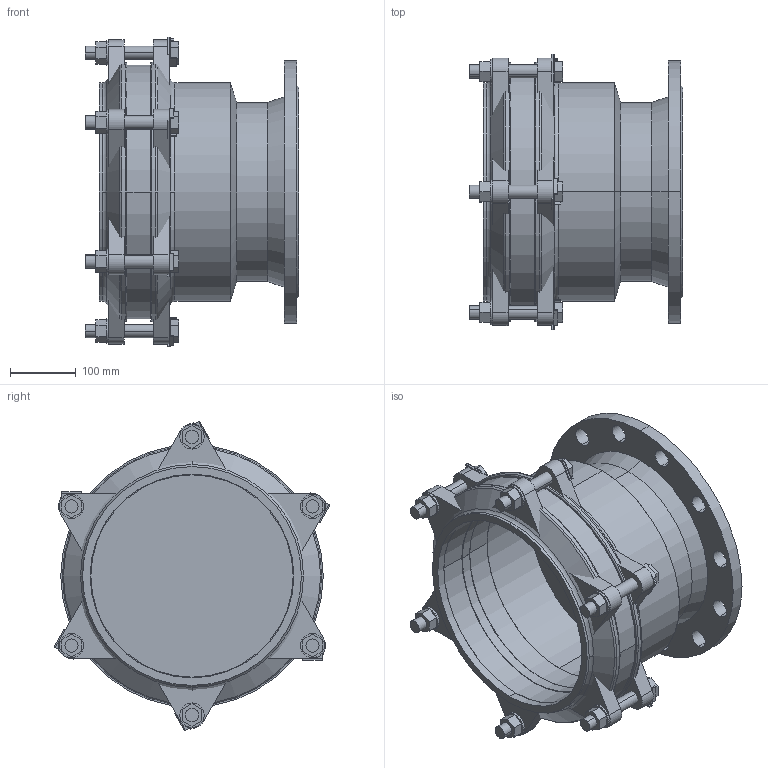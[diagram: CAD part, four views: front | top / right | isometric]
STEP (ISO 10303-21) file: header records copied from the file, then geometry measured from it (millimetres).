
FILE_DESCRIPTION(('STEP AP214'),'1');
FILE_NAME('EM100063 DN 250.STP','2015-01-29T13:41:20',(' '),(' '),'Spatial InterOp 3D',' ',' ');
FILE_SCHEMA(('automotive_design'));
Length unit declared in the file: millimetre
Products named in the file (34): 3D-Objekt
Bounding box: 325 x 420.33 x 471.96 mm (x, y, z)
Volume: 8095238.1 mm3; surface area: 1709320.5 mm2
Topology: 34 solids, 34 shells, 425 faces, 996 edges, 662 vertices
Faces by surface type: plane 271, cylinder 126, cone 16, torus 12
Entity records: 16464 total; most frequent: DIRECTION 2228, CARTESIAN_POINT 2117, ORIENTED_EDGE 1992, EDGE_CURVE 996, AXIS2_PLACEMENT_3D 773, LINE 682, VECTOR 682, VERTEX_POINT 662
